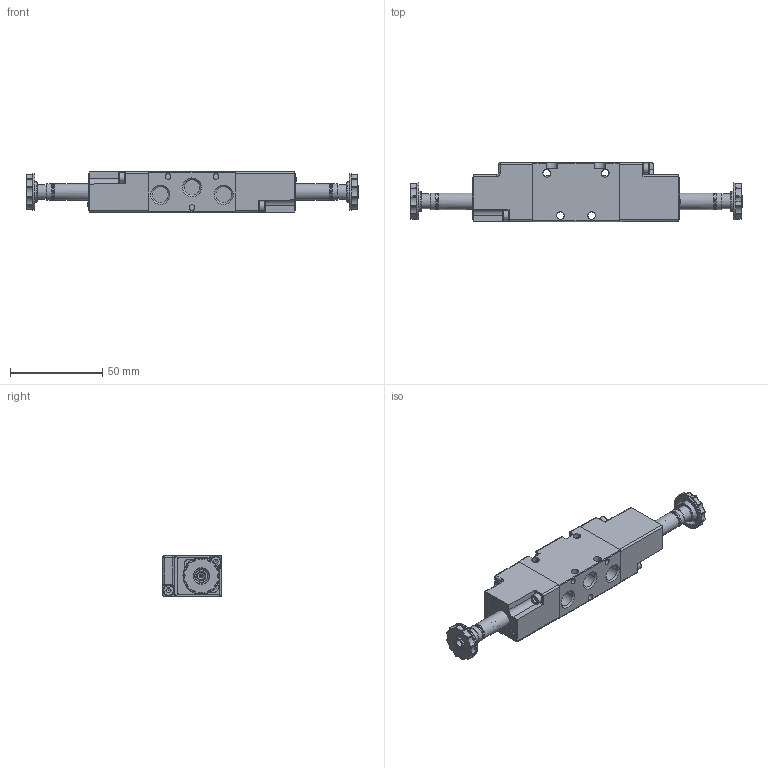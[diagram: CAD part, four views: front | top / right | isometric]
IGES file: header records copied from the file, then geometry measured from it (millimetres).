
Start section: SolidWorks IGES file using analytic representation for surfaces
Global section: file name: K:\Disegni Esecutivi\Elettrovalvole\ASSIEMI_IGS\01VS150002A.IGS; native system: SolidWorks 2012; preprocessor: SolidWorks 2012; author: cad05; date: 121128.144343; units: millimetre
Bounding box: 180.4 x 32.13 x 22 mm (x, y, z)
Surface area: 28493.6 mm2 (no closed solid volume)
Topology: 0 solids, 0 shells, 2218 faces, 16541 edges, 16161 vertices
Faces by surface type: revolution 1154, bspline 1064
